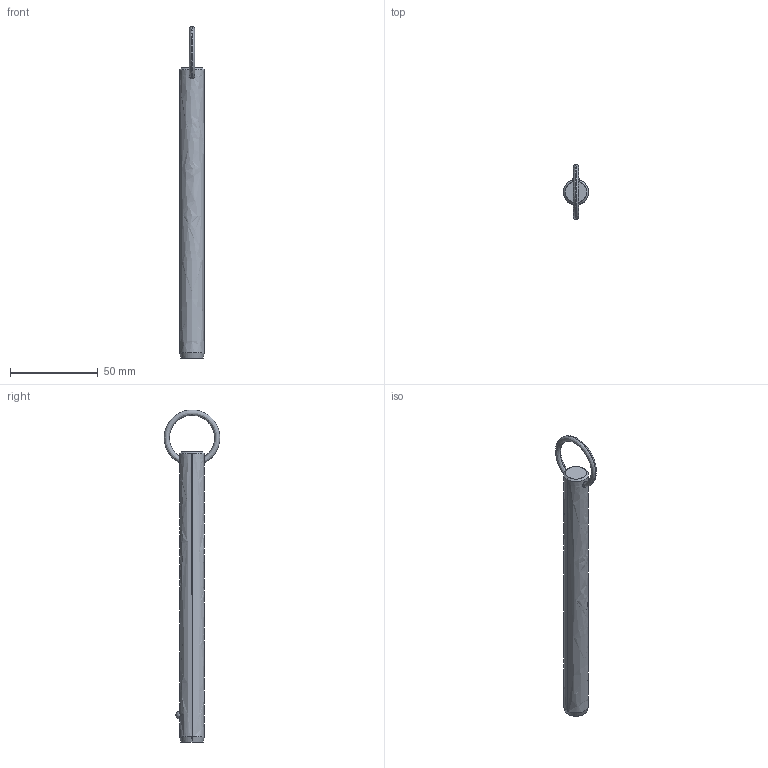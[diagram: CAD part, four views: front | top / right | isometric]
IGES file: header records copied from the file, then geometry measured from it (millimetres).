
Start section: SolidWorks IGES file using analytic representation for surfaces
Global section: file name: C:\Users\liam_\OneDrive\Documents\WORK\Work for WixRoyd\Job Files\J-00019 - Matt Davis CAD Checking\04. CAD Drawings\automotion20190605\P1250.2_v2\P1250.2_v2_20190729_IGES\P1250.056-550.igs; native system: SolidWorks 2017; preprocessor: SolidWorks 2017; author: liam_; date: 190729.232547; units: millimetre
Bounding box: 14.2 x 31.7 x 188.79 mm (x, y, z)
Surface area: 8326.6 mm2 (no closed solid volume)
Topology: 0 solids, 0 shells, 12 faces, 285 edges, 283 vertices
Faces by surface type: revolution 8, bspline 4
